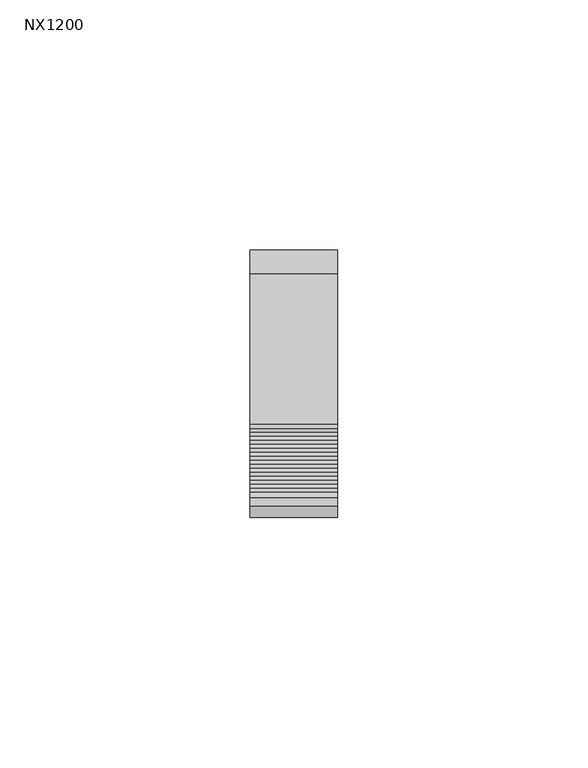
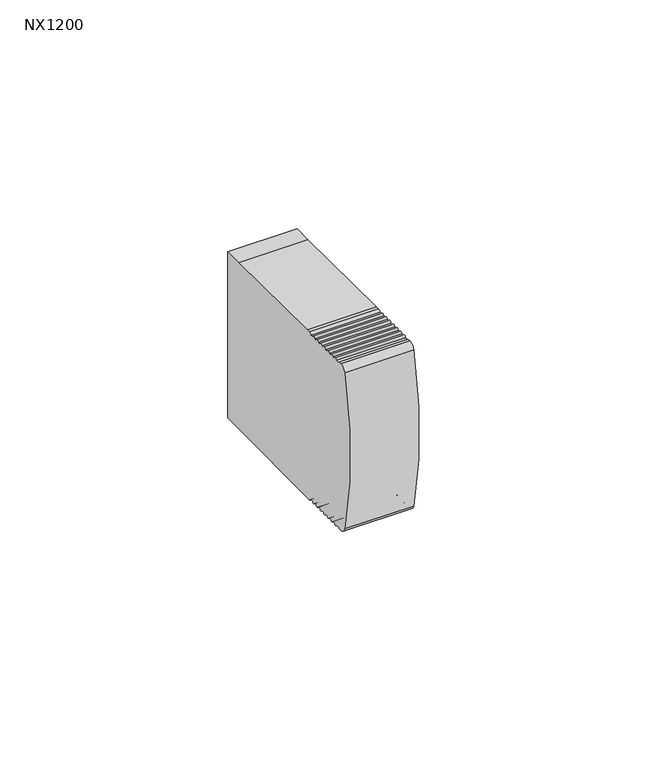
"""IFC4 building model written with IfcOpenShell, lengths in millimetres: proxy geometry, КНС_СменныйМодульУЗИП_классI+II_DKC : NX1200."""

from ifc_helpers import new_model, si_unit, point, frame, frame_2d, origin, place, context, project, spatial, polyline, circle_curve, trimmed, segment, composite_curve, outline, extrude, source, transform, mapped, element, save


def nx1200_8756095d(model_context):
    return source(origin(), model_context, "Body", "SweptSolid", [
        extrude(outline(composite_curve([segment(polyline([(-20.9549972, 22.238194), (-16.1999972, 22.238194), (-16.1999972, -22.238194), (-20.9549972, -22.238194), (-50.9549972, -22.5), (-51.8409232, -22.5)]), True, "CONTINUOUS"), segment(trimmed(circle_curve(frame_2d((-51.8159676, -21.704458)), 0.7959333), [point((-51.8409232, -22.5))], [point((-52.5549972, -22.0))], False, "CARTESIAN"), True, "CONTINUOUS"), segment(polyline([(-52.5549972, -22.0), (-53.3549972, -22.0)]), True, "CONTINUOUS"), segment(trimmed(circle_curve(frame_2d((-53.7549972, -22.0)), 0.4), [point((-53.3549972, -22.0))], [point((-54.1549972, -22.0))], False, "CARTESIAN"), True, "CONTINUOUS"), segment(polyline([(-54.1549972, -22.0), (-54.9549972, -22.0)]), True, "CONTINUOUS"), segment(trimmed(circle_curve(frame_2d((-55.3549972, -22.0)), 0.4), [point((-54.9549972, -22.0))], [point((-55.7549972, -22.0))], False, "CARTESIAN"), True, "CONTINUOUS"), segment(polyline([(-55.7549972, -22.0), (-56.5549972, -22.0)]), True, "CONTINUOUS"), segment(trimmed(circle_curve(frame_2d((-56.9549972, -22.0)), 0.4), [point((-56.5549972, -22.0))], [point((-57.3549972, -22.0))], False, "CARTESIAN"), True, "CONTINUOUS"), segment(polyline([(-57.3549972, -22.0), (-58.1549972, -22.0)]), True, "CONTINUOUS"), segment(trimmed(circle_curve(frame_2d((-58.5549972, -22.0)), 0.4), [point((-58.1549972, -22.0))], [point((-58.9549972, -22.0))], False, "CARTESIAN"), True, "CONTINUOUS"), segment(polyline([(-58.9549972, -22.0), (-59.7549972, -22.0)]), True, "CONTINUOUS"), segment(trimmed(circle_curve(frame_2d((-60.1549972, -22.0)), 0.4), [point((-59.7549972, -22.0))], [point((-60.5549972, -22.0))], False, "CARTESIAN"), True, "CONTINUOUS"), segment(polyline([(-60.5549972, -22.0), (-61.3549972, -22.0)]), True, "CONTINUOUS"), segment(trimmed(circle_curve(frame_2d((-61.7549972, -22.0)), 0.4), [point((-61.3549972, -22.0))], [point((-62.1549972, -22.0))], False, "CARTESIAN"), True, "CONTINUOUS"), segment(polyline([(-62.1549972, -22.0), (-62.9549972, -22.0)]), True, "CONTINUOUS"), segment(trimmed(circle_curve(frame_2d((-63.3549972, -22.0)), 0.4), [point((-62.9549972, -22.0))], [point((-63.7549972, -22.0))], False, "CARTESIAN"), True, "CONTINUOUS"), segment(polyline([(-63.7549972, -22.0), (-64.5549972, -22.0)]), True, "CONTINUOUS"), segment(trimmed(circle_curve(frame_2d((-65.6169646, -20.2703757)), 2.0296243), [point((-64.5549972, -22.0))], [point((-65.6169646, -22.3))], False, "CARTESIAN"), True, "CONTINUOUS"), segment(trimmed(circle_curve(frame_2d((-65.6408544, -20.5391615)), 1.7610005), [point((-65.6169646, -22.3))], [point((-67.3551679, -20.9419667))], False, "CARTESIAN"), True, "CONTINUOUS"), segment(trimmed(circle_curve(frame_2d((15.9165985, 0.0)), 85.8647369), [point((-67.3551679, -20.9419667))], [point((-67.3551679, 20.9419667))], False, "CARTESIAN"), True, "CONTINUOUS"), segment(trimmed(circle_curve(frame_2d((-65.6408544, 20.5391615)), 1.7610005), [point((-67.3551679, 20.9419667))], [point((-65.6169646, 22.3))], False, "CARTESIAN"), True, "CONTINUOUS"), segment(trimmed(circle_curve(frame_2d((-65.6169646, 20.2703757)), 2.0296243), [point((-65.6169646, 22.3))], [point((-64.5549972, 22.0))], False, "CARTESIAN"), True, "CONTINUOUS"), segment(polyline([(-64.5549972, 22.0), (-63.7549972, 22.0)]), True, "CONTINUOUS"), segment(trimmed(circle_curve(frame_2d((-63.3549972, 22.0)), 0.4), [point((-63.7549972, 22.0))], [point((-62.9549972, 22.0))], False, "CARTESIAN"), True, "CONTINUOUS"), segment(polyline([(-62.9549972, 22.0), (-62.1549972, 22.0)]), True, "CONTINUOUS"), segment(trimmed(circle_curve(frame_2d((-61.7549972, 22.0)), 0.4), [point((-62.1549972, 22.0))], [point((-61.3549972, 22.0))], False, "CARTESIAN"), True, "CONTINUOUS"), segment(polyline([(-61.3549972, 22.0), (-60.5549972, 22.0)]), True, "CONTINUOUS"), segment(trimmed(circle_curve(frame_2d((-60.1549972, 22.0)), 0.4), [point((-60.5549972, 22.0))], [point((-59.7549972, 22.0))], False, "CARTESIAN"), True, "CONTINUOUS"), segment(polyline([(-59.7549972, 22.0), (-58.9549972, 22.0)]), True, "CONTINUOUS"), segment(trimmed(circle_curve(frame_2d((-58.5549972, 22.0)), 0.4), [point((-58.9549972, 22.0))], [point((-58.1549972, 22.0))], False, "CARTESIAN"), True, "CONTINUOUS"), segment(polyline([(-58.1549972, 22.0), (-57.3549972, 22.0)]), True, "CONTINUOUS"), segment(trimmed(circle_curve(frame_2d((-56.9549972, 22.0)), 0.4), [point((-57.3549972, 22.0))], [point((-56.5549972, 22.0))], False, "CARTESIAN"), True, "CONTINUOUS"), segment(polyline([(-56.5549972, 22.0), (-55.7549972, 22.0)]), True, "CONTINUOUS"), segment(trimmed(circle_curve(frame_2d((-55.3549972, 22.0)), 0.4), [point((-55.7549972, 22.0))], [point((-54.9549972, 22.0))], False, "CARTESIAN"), True, "CONTINUOUS"), segment(polyline([(-54.9549972, 22.0), (-54.1549972, 22.0)]), True, "CONTINUOUS"), segment(trimmed(circle_curve(frame_2d((-53.7549972, 22.0)), 0.4), [point((-54.1549972, 22.0))], [point((-53.3549972, 22.0))], False, "CARTESIAN"), True, "CONTINUOUS"), segment(polyline([(-53.3549972, 22.0), (-52.5549972, 22.0)]), True, "CONTINUOUS"), segment(trimmed(circle_curve(frame_2d((-51.8159676, 21.704458)), 0.7959333), [point((-52.5549972, 22.0))], [point((-51.8409232, 22.5))], False, "CARTESIAN"), True, "CONTINUOUS"), segment(polyline([(-51.8409232, 22.5), (-50.9549972, 22.5), (-20.9549972, 22.238194)]), True, "CONTINUOUS")], self_intersect=False)), frame((-8.75, 0.0, 0.0), z_axis=(1.0, 0.0, 0.0), x_axis=(0.0, 1.0, 0.0)), (0.0, 0.0, 1.0), 17.5),
    ])


if __name__ == "__main__":
    model = new_model("IFC4")
    model_context = context("Model", 3, world=origin())
    ifc_project = project(units=[si_unit("LENGTHUNIT", "METRE", prefix="MILLI")], contexts=[model_context])
    site = spatial("IfcSite", under=ifc_project)
    building = spatial("IfcBuilding", under=site)
    placement = place(None, origin())
    nx1200_shape = nx1200_8756095d(model_context)
    element("IfcBuildingElementProxy", 1, Name="КНС_СменныйМодульУЗИП_классI+II_DKC : NX1200", ObjectType="КНС_СменныйМодульУЗИП_классI+II_DKC : NX1200", at=placement, inside=building, context=model_context, shape_type="MappedRepresentation", body=[
        mapped(nx1200_shape, transform((0.0, 0.0, 0.0), x_axis=(1.0, 0.0, 0.0), y_axis=(0.0, 1.0, 0.0), z_axis=(0.0, 0.0, 1.0))),
    ])
    save(model, "model.ifc")
